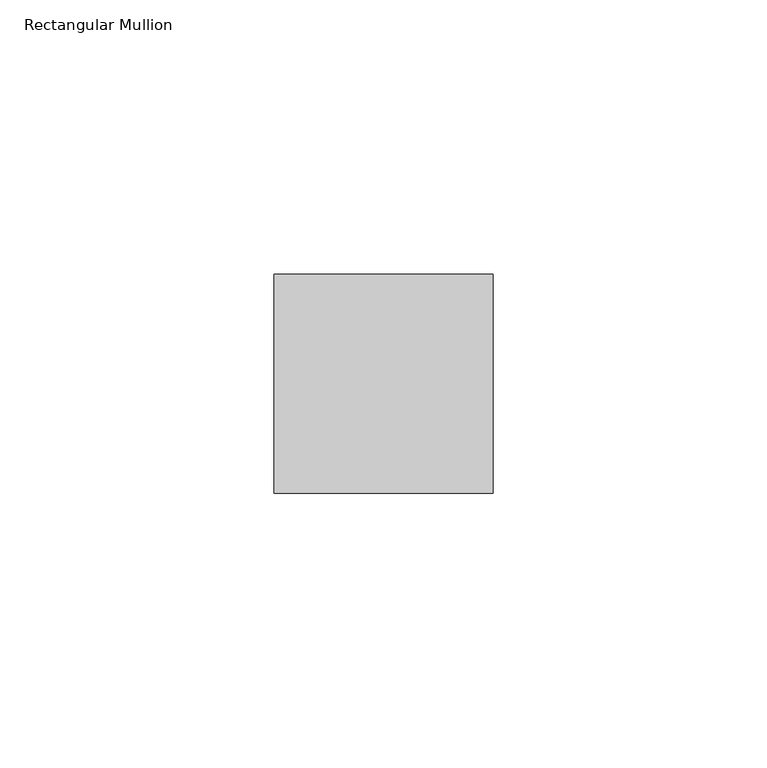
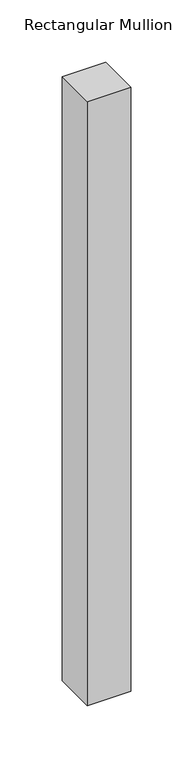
"""IFC4 building model written with IfcOpenShell, lengths in millimetres: member geometry, Rectangular Mullion : Danpal_NM_Middle-V-Mullion."""

from ifc_helpers import new_model, si_unit, frame, origin, place, context, project, spatial, polyline, outline, extrude, source, transform, mapped, element, save


def rectangular_mullion_ab91a09a(model_context):
    return source(origin(), model_context, "Body", "SweptSolid", [
        extrude(outline(polyline([(0.0, 13.2378279), (-40.0, 13.2378279), (-40.0, 53.2378279), (0.0, 53.2378279), (0.0, 13.2378279)])), frame((0.0, 0.0, -590.9514438), z_axis=(0.0, 0.0, 1.0), x_axis=(1.0, 0.0, 0.0)), (0.0, 0.0, 1.0), 590.9514438),
    ])


if __name__ == "__main__":
    model = new_model("IFC4")
    model_context = context("Model", 3, world=origin())
    ifc_project = project(units=[si_unit("LENGTHUNIT", "METRE", prefix="MILLI")], contexts=[model_context])
    site = spatial("IfcSite", under=ifc_project)
    building = spatial("IfcBuilding", under=site)
    placement = place(None, origin())
    rectangular_mullion_shape = rectangular_mullion_ab91a09a(model_context)
    element("IfcMember", 1, ObjectType="Rectangular Mullion : Danpal_NM_Middle-V-Mullion", at=placement, inside=building, context=model_context, shape_type="MappedRepresentation", body=[
        mapped(rectangular_mullion_shape, transform((0.0, 0.0, 0.0), x_axis=(1.0, 0.0, 0.0), y_axis=(0.0, 1.0, 0.0), z_axis=(0.0, 0.0, 1.0))),
    ])
    save(model, "model.ifc")
